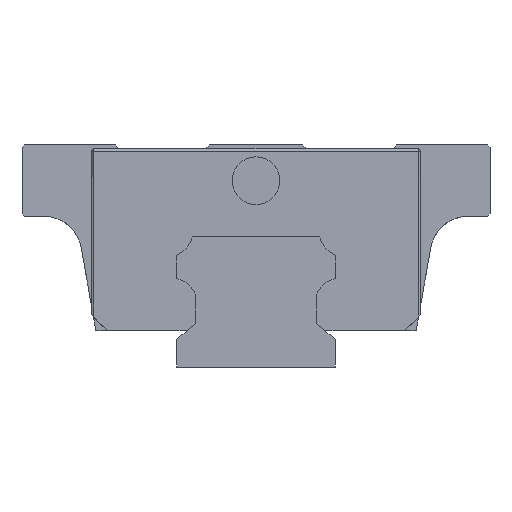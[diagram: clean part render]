
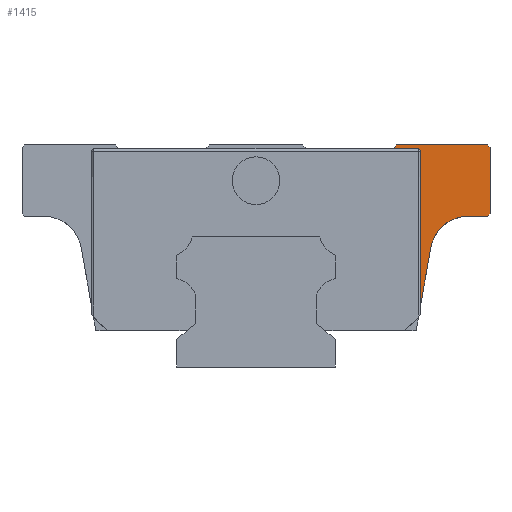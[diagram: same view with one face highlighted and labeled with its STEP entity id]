
A CAD part, left-side view. The second image highlights one B-rep face of the part: STEP entity #1415.
In plain terms, the highlighted planar face has unit normal (-1, 0, 0).
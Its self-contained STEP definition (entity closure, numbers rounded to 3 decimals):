
#176 = CIRCLE ( 'NONE', #4472, 4.75 ) ;
#268 = CARTESIAN_POINT ( 'NONE',  ( -23.35, -26.714, 14.25 ) ) ;
#315 = ORIENTED_EDGE ( 'NONE', *, *, #1053, .T. ) ;
#342 = ORIENTED_EDGE ( 'NONE', *, *, #2498, .T. ) ;
#358 = VERTEX_POINT ( 'NONE', #7075 ) ;
#398 = CARTESIAN_POINT ( 'NONE',  ( -23.35, -26.714, 19. ) ) ;
#440 = CARTESIAN_POINT ( 'NONE',  ( -23.35, -17.7, 28. ) ) ;
#479 = LINE ( 'NONE', #4079, #4340 ) ;
#527 = DIRECTION ( 'NONE',  ( 0., -0.707, 0.707 ) ) ;
#627 = DIRECTION ( 'NONE',  ( 0., -0.174, 0.985 ) ) ;
#730 = EDGE_CURVE ( 'NONE', #2280, #4613, #5433, .T. ) ;
#900 = CIRCLE ( 'NONE', #5079, 0.295 ) ;
#996 = EDGE_CURVE ( 'NONE', #4701, #4600, #900, .T. ) ;
#1053 = EDGE_CURVE ( 'NONE', #6743, #5464, #2496, .T. ) ;
#1096 = ORIENTED_EDGE ( 'NONE', *, *, #1748, .T. ) ;
#1133 = DIRECTION ( 'NONE',  ( 0., -1., 0. ) ) ;
#1151 = AXIS2_PLACEMENT_3D ( 'NONE', #4050, #6968, #4678 ) ;
#1175 = DIRECTION ( 'NONE',  ( 0., 0., 1. ) ) ;
#1215 = CARTESIAN_POINT ( 'NONE',  ( -23.35, -11.773, 1.568 ) ) ;
#1382 = EDGE_LOOP ( 'NONE', ( #3284, #5615, #1579, #4275, #5542, #342, #6112, #7531, #315, #6030, #1096 ) ) ;
#1415 = ADVANCED_FACE ( 'NONE', ( #1796 ), #3553, .T. ) ;
#1476 = VECTOR ( 'NONE', #6116, 1000. ) ;
#1511 = EDGE_CURVE ( 'NONE', #5464, #358, #1867, .T. ) ;
#1568 = CARTESIAN_POINT ( 'NONE',  ( -23.35, -29.5, 19.295 ) ) ;
#1579 = ORIENTED_EDGE ( 'NONE', *, *, #996, .T. ) ;
#1691 = VECTOR ( 'NONE', #1175, 1000. ) ;
#1748 = EDGE_CURVE ( 'NONE', #358, #4239, #479, .T. ) ;
#1796 = FACE_OUTER_BOUND ( 'NONE', #1382, .T. ) ;
#1814 = EDGE_CURVE ( 'NONE', #2063, #5636, #3366, .T. ) ;
#1867 = LINE ( 'NONE', #3668, #3721 ) ;
#2063 = VERTEX_POINT ( 'NONE', #398 ) ;
#2280 = VERTEX_POINT ( 'NONE', #6868 ) ;
#2496 = LINE ( 'NONE', #5954, #4699 ) ;
#2498 = EDGE_CURVE ( 'NONE', #4613, #2063, #176, .T. ) ;
#2555 = CARTESIAN_POINT ( 'NONE',  ( -23.35, -29.205, 19. ) ) ;
#2622 = VECTOR ( 'NONE', #1133, 1000. ) ;
#2743 = CARTESIAN_POINT ( 'NONE',  ( -23.35, -22.036, 15.075 ) ) ;
#2802 = DIRECTION ( 'NONE',  ( 1., 0., 0. ) ) ;
#3284 = ORIENTED_EDGE ( 'NONE', *, *, #4957, .T. ) ;
#3366 = LINE ( 'NONE', #4040, #2622 ) ;
#3408 = CARTESIAN_POINT ( 'NONE',  ( -23.35, -29.5, 27.705 ) ) ;
#3478 = LINE ( 'NONE', #1215, #7238 ) ;
#3553 = PLANE ( 'NONE',  #1151 ) ;
#3668 = CARTESIAN_POINT ( 'NONE',  ( -23.35, -30.673, 26.532 ) ) ;
#3721 = VECTOR ( 'NONE', #3749, 1000. ) ;
#3749 = DIRECTION ( 'NONE',  ( 0., 0.707, 0.707 ) ) ;
#3831 = DIRECTION ( 'NONE',  ( 0., 1., 0. ) ) ;
#4040 = CARTESIAN_POINT ( 'NONE',  ( -23.35, -22.728, 19. ) ) ;
#4050 = CARTESIAN_POINT ( 'NONE',  ( -23.35, -8.741, 4.6 ) ) ;
#4079 = CARTESIAN_POINT ( 'NONE',  ( -23.35, -29.5, 28. ) ) ;
#4180 = DIRECTION ( 'NONE',  ( 0., 0., 1. ) ) ;
#4239 = VERTEX_POINT ( 'NONE', #4450 ) ;
#4275 = ORIENTED_EDGE ( 'NONE', *, *, #7439, .F. ) ;
#4340 = VECTOR ( 'NONE', #5821, 1000. ) ;
#4358 = EDGE_CURVE ( 'NONE', #5636, #6743, #3478, .T. ) ;
#4450 = CARTESIAN_POINT ( 'NONE',  ( -23.35, -17.7, 28. ) ) ;
#4472 = AXIS2_PLACEMENT_3D ( 'NONE', #268, #5005, #6673 ) ;
#4478 = VECTOR ( 'NONE', #627, 1000. ) ;
#4554 = CARTESIAN_POINT ( 'NONE',  ( -23.35, -20.75, 27.205 ) ) ;
#4600 = VERTEX_POINT ( 'NONE', #4554 ) ;
#4613 = VERTEX_POINT ( 'NONE', #2743 ) ;
#4614 = VERTEX_POINT ( 'NONE', #6877 ) ;
#4678 = DIRECTION ( 'NONE',  ( 0., 0., 1. ) ) ;
#4699 = VECTOR ( 'NONE', #4180, 1000. ) ;
#4701 = VERTEX_POINT ( 'NONE', #6234 ) ;
#4957 = EDGE_CURVE ( 'NONE', #4239, #4614, #6714, .T. ) ;
#5005 = DIRECTION ( 'NONE',  ( 1., 0., 0. ) ) ;
#5079 = AXIS2_PLACEMENT_3D ( 'NONE', #5160, #2802, #7478 ) ;
#5160 = CARTESIAN_POINT ( 'NONE',  ( -23.35, -20.455, 27.205 ) ) ;
#5259 = EDGE_CURVE ( 'NONE', #4701, #4614, #6588, .T. ) ;
#5433 = LINE ( 'NONE', #7064, #4478 ) ;
#5464 = VERTEX_POINT ( 'NONE', #3408 ) ;
#5542 = ORIENTED_EDGE ( 'NONE', *, *, #730, .T. ) ;
#5615 = ORIENTED_EDGE ( 'NONE', *, *, #5259, .F. ) ;
#5636 = VERTEX_POINT ( 'NONE', #2555 ) ;
#5820 = CARTESIAN_POINT ( 'NONE',  ( -23.35, -20.75, 6.6 ) ) ;
#5821 = DIRECTION ( 'NONE',  ( 0., 1., 0. ) ) ;
#5954 = CARTESIAN_POINT ( 'NONE',  ( -23.35, -29.5, 19. ) ) ;
#6030 = ORIENTED_EDGE ( 'NONE', *, *, #1511, .T. ) ;
#6112 = ORIENTED_EDGE ( 'NONE', *, *, #1814, .T. ) ;
#6116 = DIRECTION ( 'NONE',  ( 0., 0.643, -0.766 ) ) ;
#6234 = CARTESIAN_POINT ( 'NONE',  ( -23.35, -20.455, 27.5 ) ) ;
#6588 = LINE ( 'NONE', #7202, #6636 ) ;
#6636 = VECTOR ( 'NONE', #3831, 1000. ) ;
#6673 = DIRECTION ( 'NONE',  ( 0., 0., 1. ) ) ;
#6714 = LINE ( 'NONE', #440, #1476 ) ;
#6743 = VERTEX_POINT ( 'NONE', #1568 ) ;
#6868 = CARTESIAN_POINT ( 'NONE',  ( -23.35, -20.75, 7.78 ) ) ;
#6877 = CARTESIAN_POINT ( 'NONE',  ( -23.35, -17.28, 27.5 ) ) ;
#6921 = LINE ( 'NONE', #5820, #1691 ) ;
#6968 = DIRECTION ( 'NONE',  ( -1., 0., 0. ) ) ;
#7064 = CARTESIAN_POINT ( 'NONE',  ( -23.35, -20.189, 4.6 ) ) ;
#7075 = CARTESIAN_POINT ( 'NONE',  ( -23.35, -29.205, 28. ) ) ;
#7202 = CARTESIAN_POINT ( 'NONE',  ( -23.35, -20.542, 27.5 ) ) ;
#7238 = VECTOR ( 'NONE', #527, 1000. ) ;
#7439 = EDGE_CURVE ( 'NONE', #2280, #4600, #6921, .T. ) ;
#7478 = DIRECTION ( 'NONE',  ( 0., 0., 1. ) ) ;
#7531 = ORIENTED_EDGE ( 'NONE', *, *, #4358, .T. ) ;
